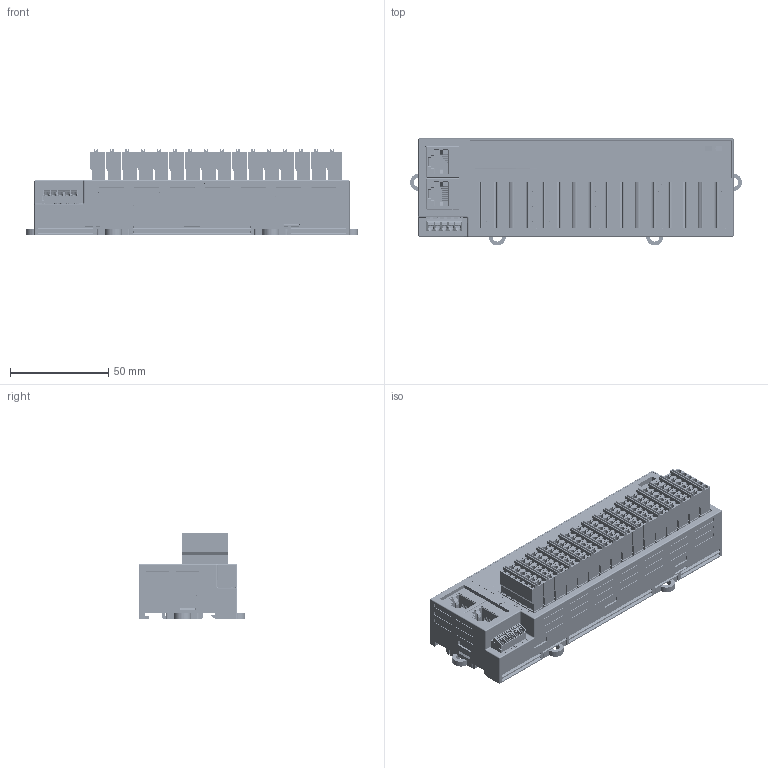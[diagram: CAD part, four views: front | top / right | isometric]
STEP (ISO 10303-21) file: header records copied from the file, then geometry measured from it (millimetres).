
FILE_DESCRIPTION((''),'2;1');
FILE_NAME('HCNXE-MD2408-D-DUIWAI_ASM_ASM','2021-09-23T13:34:57',('Naoki'),(''),'CREO PARAMETRIC BY PTC INC, 2018050','CREO PARAMETRIC BY PTC INC, 2018050','');
FILE_SCHEMA(('CONFIG_CONTROL_DESIGN','SHAPE_APPEARANCE_LAYERS_GROUPS'));
Products named in the file (1): HCNXE-MD2408-D-DUIWAI_ASM_ASM
Bounding box: 168.6 x 54.3 x 44 mm (x, y, z)
Volume: 179537.1 mm3; surface area: 146947.4 mm2
Topology: 28 solids, 526 shells, 14905 faces, 47944 edges, 33203 vertices
Faces by surface type: plane 11319, cylinder 1933, cone 646, bspline 346, extrusion 233, torus 221, sphere 207
Full cylindrical faces by diameter (mm): 0.9 x2
Entity records: 766694 total; most frequent: CARTESIAN_POINT 180234, ORIENTED_EDGE 87414, DIRECTION 74536, EDGE_CURVE 47750, PRESENTATION_STYLE_ASSIGNMENT 45018, STYLED_ITEM 39332, VECTOR 34782, LINE 34549
